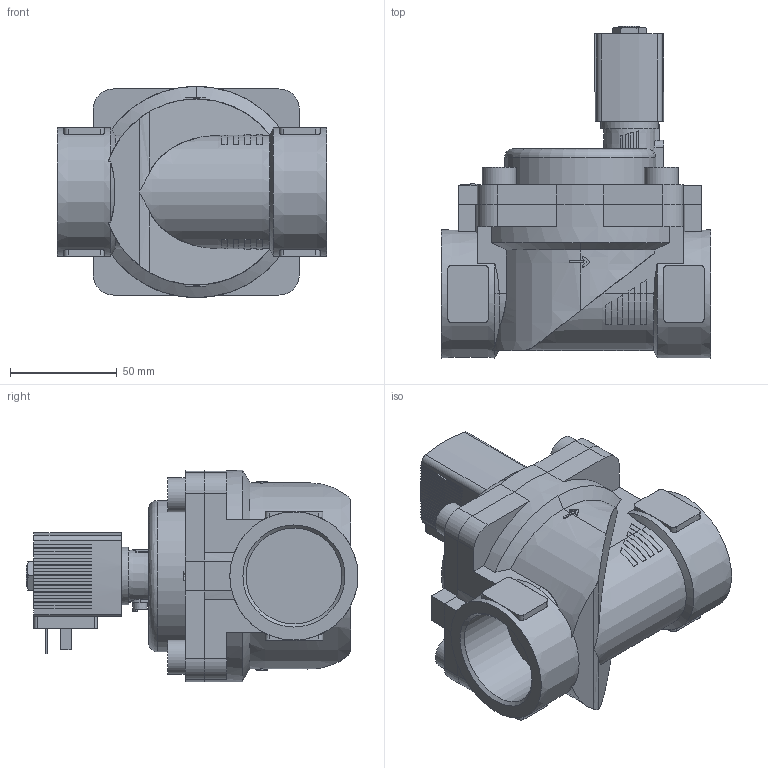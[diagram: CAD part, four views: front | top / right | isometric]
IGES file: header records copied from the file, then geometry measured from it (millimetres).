
Start section: Data from Parasolid IGES Translator 26.0.171, Copyright(c) 2006 Siemens PLM Software. All Rights Reserved.
Global section: file name: 6281-372913-2_2-Way_Solenoid_Valve__Servo-assisted__General_Purpose.igs; native system: By Siemens PLM Incorporated; preprocessor: XPlus GENERIC/IGES 26.0.171; author: Noname; organization: Noname; date: 20240702.114536; units: millimetre
Bounding box: 126 x 155.5 x 99 mm (x, y, z)
Surface area: 94110.6 mm2 (no closed solid volume)
Topology: 0 solids, 0 shells, 580 faces, 3234 edges, 3214 vertices
Faces by surface type: extrusion 448, revolution 132
